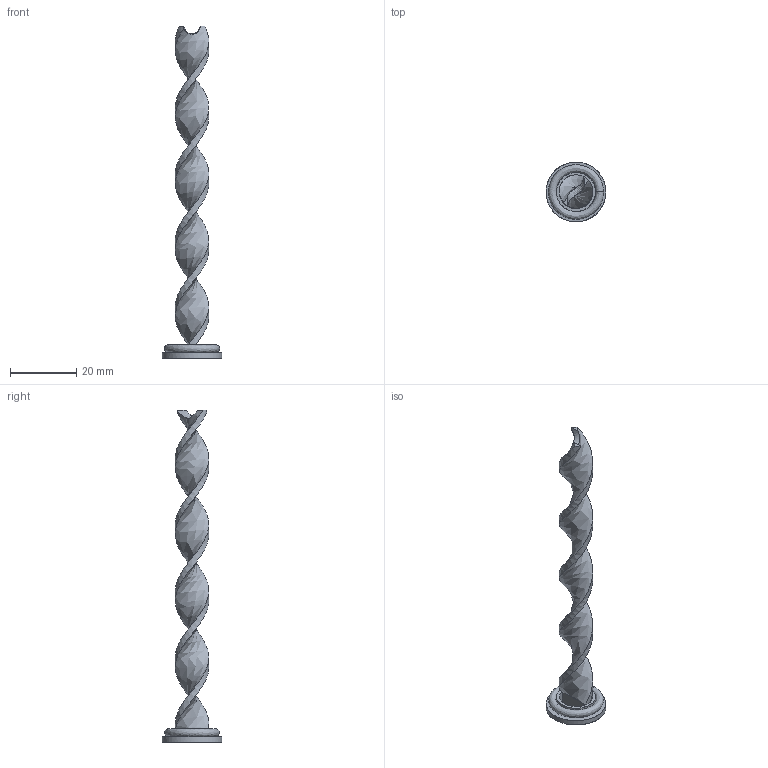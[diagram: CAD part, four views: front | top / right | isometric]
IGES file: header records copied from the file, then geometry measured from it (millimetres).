
Global section: file name: E:\UnigraphicsGraphicData\MISUMI_MOLD-PARTS\NX\3d_wrcan10-100_00620_r00.igs; native system: NX V5.0; preprocessor: UGS NX IGES V5.0; author: MISUMI; date: 20101115.183627; units: millimetre
Bounding box: 18 x 18 x 100 mm (x, y, z)
Surface area: 3585.6 mm2 (no closed solid volume)
Topology: 0 solids, 0 shells, 21 faces, 148 edges, 141 vertices
Faces by surface type: bspline 21
